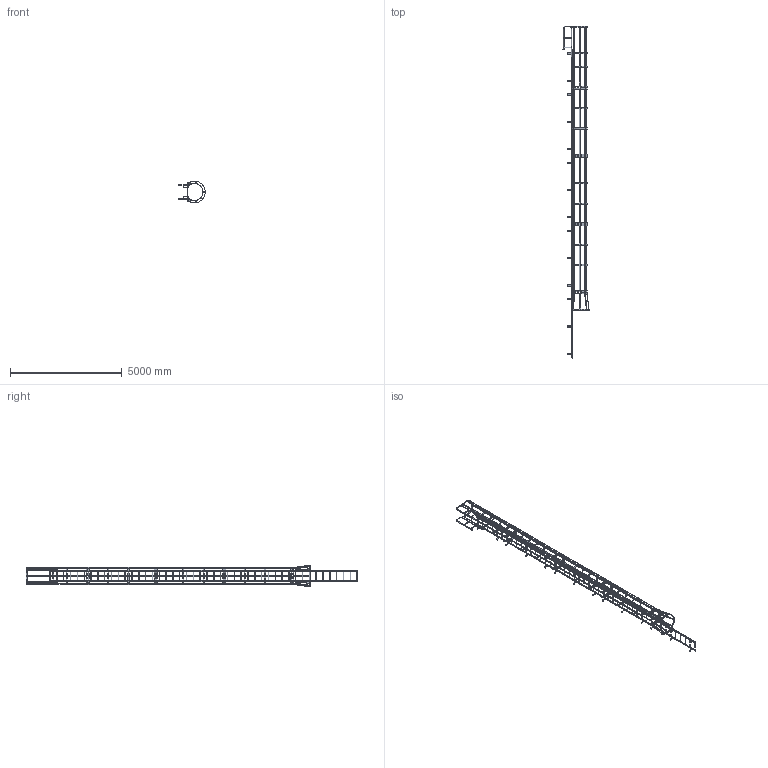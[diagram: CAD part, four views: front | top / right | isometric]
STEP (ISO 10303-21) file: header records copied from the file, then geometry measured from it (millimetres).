
FILE_DESCRIPTION(/* description */ (''),/* implementation_level */ '2;1');
FILE_NAME(/* name */ 'C:\Vault Working Folder\Company\Cotterman\3057\3570407 F46WC SIMPLIFIED PART.stp',/* time_stamp */ '2020-05-08T15:34:22-04:00',/* author */ ('karen'),/* organization */ (''),/* preprocessor_version */ 'ST-DEVELOPER v18',/* originating_system */ 'Autodesk Inventor 2020',/* authorisation */ '');
FILE_SCHEMA (('AUTOMOTIVE_DESIGN { 1 0 10303 214 3 1 1 }'));
Products named in the file (1): 3570407 F46WC SIMPLIFIED PART
Bounding box: 1195.62 x 14830.42 x 977.88 mm (x, y, z)
Volume: 53240900 mm3; surface area: 19839035.2 mm2
Topology: 62 solids, 62 shells, 1713 faces, 5399 edges, 3530 vertices
Faces by surface type: plane 1138, cylinder 567, torus 8
Full cylindrical faces by diameter (mm): 10.319 x4, 14.287 x36, 19.05 x46, 22.098 x10, 22.225 x92, 25.4 x8
Entity records: 63517 total; most frequent: CARTESIAN_POINT 11131, ORIENTED_EDGE 10914, DIRECTION 10443, EDGE_CURVE 5457, LINE 3851, VECTOR 3851, VERTEX_POINT 3552, AXIS2_PLACEMENT_3D 3296
